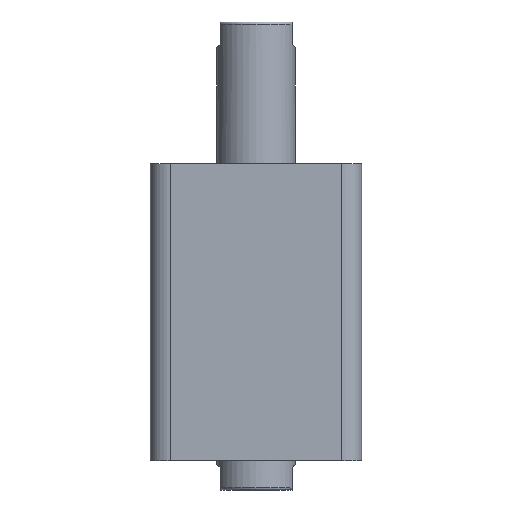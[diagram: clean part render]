
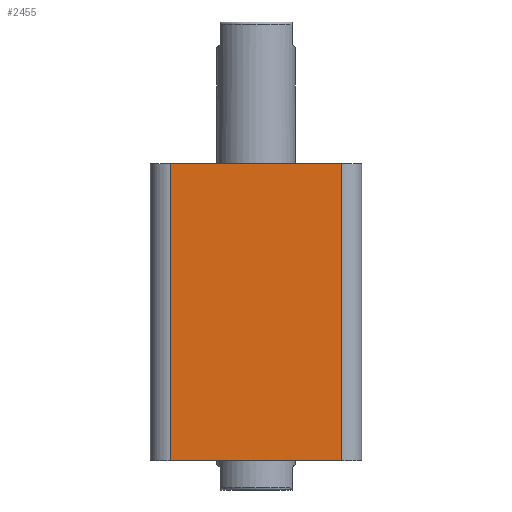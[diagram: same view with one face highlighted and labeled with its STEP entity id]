
A CAD part, front view. The second image highlights one B-rep face of the part: STEP entity #2455.
In plain terms, the highlighted planar face has unit normal (0, -1, 0).
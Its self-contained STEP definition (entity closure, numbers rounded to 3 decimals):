
#10 = EDGE_LOOP ( 'NONE', ( #1551, #1552, #1554, #1549 ) ) ;
#32 = VERTEX_POINT ( 'NONE', #2497 ) ;
#326 = LINE ( 'NONE', #760, #339 ) ;
#332 = LINE ( 'NONE', #770, #335 ) ;
#334 = LINE ( 'NONE', #772, #337 ) ;
#335 = VECTOR ( 'NONE', #771, 1000. ) ;
#337 = VECTOR ( 'NONE', #773, 1000. ) ;
#338 = LINE ( 'NONE', #775, #341 ) ;
#339 = VECTOR ( 'NONE', #774, 1000. ) ;
#341 = VECTOR ( 'NONE', #776, 1000. ) ;
#490 = FACE_OUTER_BOUND ( 'NONE', #10, .T. ) ;
#760 = CARTESIAN_POINT ( 'NONE',  ( -47., -47., 0. ) ) ;
#770 = CARTESIAN_POINT ( 'NONE',  ( -47., -47., 132. ) ) ;
#771 = DIRECTION ( 'NONE',  ( 1., 0., 0. ) ) ;
#772 = CARTESIAN_POINT ( 'NONE',  ( -38., -47., 132. ) ) ;
#773 = DIRECTION ( 'NONE',  ( 0., 0., -1. ) ) ;
#774 = DIRECTION ( 'NONE',  ( 1., 0., 0. ) ) ;
#775 = CARTESIAN_POINT ( 'NONE',  ( 38., -47., 132. ) ) ;
#776 = DIRECTION ( 'NONE',  ( 0., 0., 1. ) ) ;
#1130 = AXIS2_PLACEMENT_3D ( 'NONE', #2169, #2173, #2174 ) ;
#1259 = VERTEX_POINT ( 'NONE', #2521 ) ;
#1261 = VERTEX_POINT ( 'NONE', #2523 ) ;
#1398 = VERTEX_POINT ( 'NONE', #2527 ) ;
#1549 = ORIENTED_EDGE ( 'NONE', *, *, #1901, .T. ) ;
#1551 = ORIENTED_EDGE ( 'NONE', *, *, #1898, .F. ) ;
#1552 = ORIENTED_EDGE ( 'NONE', *, *, #1899, .T. ) ;
#1554 = ORIENTED_EDGE ( 'NONE', *, *, #1900, .T. ) ;
#1898 = EDGE_CURVE ( 'NONE', #1259, #1261, #332, .T. ) ;
#1899 = EDGE_CURVE ( 'NONE', #1259, #1398, #334, .T. ) ;
#1900 = EDGE_CURVE ( 'NONE', #1398, #32, #326, .T. ) ;
#1901 = EDGE_CURVE ( 'NONE', #32, #1261, #338, .T. ) ;
#2169 = CARTESIAN_POINT ( 'NONE',  ( -47., -47., 132. ) ) ;
#2171 = PLANE ( 'NONE',  #1130 ) ;
#2173 = DIRECTION ( 'NONE',  ( 0., 1., 0. ) ) ;
#2174 = DIRECTION ( 'NONE',  ( 0., 0., 1. ) ) ;
#2455 = ADVANCED_FACE ( 'NONE', ( #490 ), #2171, .F. ) ;
#2497 = CARTESIAN_POINT ( 'NONE',  ( 38., -47., 0. ) ) ;
#2521 = CARTESIAN_POINT ( 'NONE',  ( -38., -47., 132. ) ) ;
#2523 = CARTESIAN_POINT ( 'NONE',  ( 38., -47., 132. ) ) ;
#2527 = CARTESIAN_POINT ( 'NONE',  ( -38., -47., 0. ) ) ;
